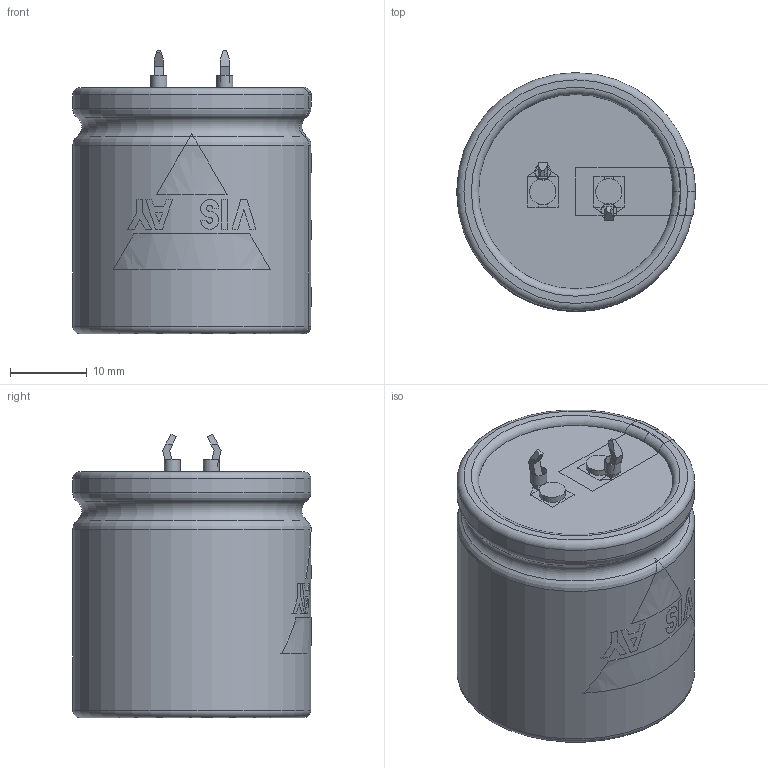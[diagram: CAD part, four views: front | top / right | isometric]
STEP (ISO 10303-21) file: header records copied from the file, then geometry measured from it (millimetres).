
FILE_DESCRIPTION(('FreeCAD Model'),'2;1');
FILE_NAME( 'C:/Users/Gebruiker/Documents/FreeCAD/SnapIn_30x30_2pin_4.0.step', '2020-11-12T20:20:40',('Author'),(''), 'Open CASCADE STEP processor 6.8','FreeCAD','Unknown');
FILE_SCHEMA(('AUTOMOTIVE_DESIGN_CC2 { 1 2 10303 214 -1 1 5 4 }'));
Length unit declared in the file: millimetre
Products named in the file (9): ASSEMBLY; TerminalMin; TerminalPlus; PCBHoles; Disc; BottomInsulation; Can3D; InkMinusBar; InkLogo
Assembly tree (8 placements, depth 2):
  ASSEMBLY
    TerminalMin
    TerminalPlus
    PCBHoles
    Disc
    BottomInsulation
    Can3D
    InkMinusBar
    InkLogo
Bounding box: 31.05 x 31.05 x 36.95 mm (x, y, z)
Volume: 27710.1 mm3; surface area: 11849 mm2
Topology: 16 solids, 16 shells, 191 faces, 465 edges, 305 vertices
Faces by surface type: plane 143, cylinder 28, torus 20
Full cylindrical faces by diameter (mm): 2 x2, 2.1 x2, 3.4 x2, 24.8 x2, 25.3 x1, 31 x2
Entity records: 20970 total; most frequent: CARTESIAN_POINT 10536, DIRECTION 1618, ORIENTED_EDGE 930, PCURVE 930, DEFINITIONAL_REPRESENTATION 930, LINE 911, VECTOR 911, EDGE_CURVE 465
